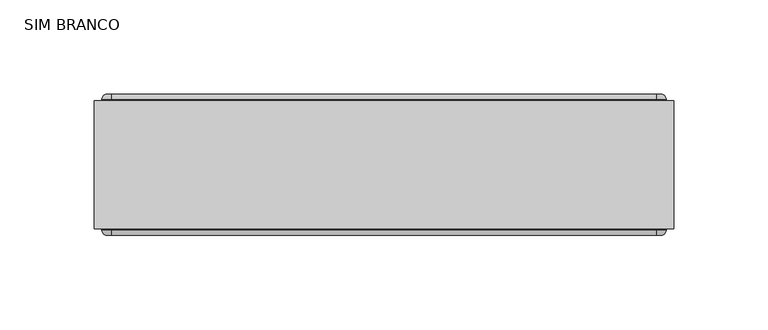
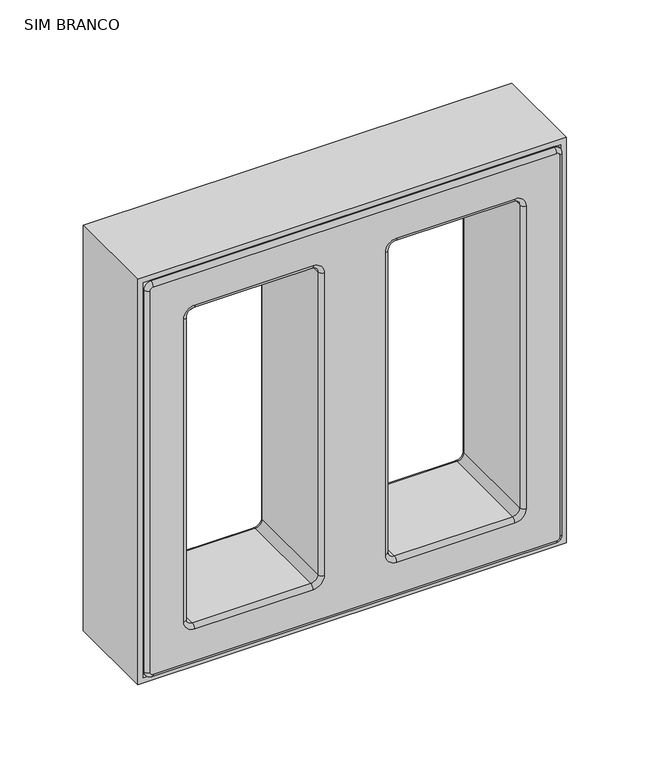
"""IFC4 building model written with IfcOpenShell, lengths in millimetres: plate geometry, PORTOBELLO - ELEMENTO SIM BRANCO 30X30 (PAINEL CORTINA) : SIM BRANCO."""

from ifc_helpers import new_model, si_unit, point, frame, origin, place, context, project, spatial, polyline, circle_curve, ellipse_curve, trimmed, outline, extrude, source, transform, mapped, element, save
from ifc_brep_helpers import plane_surface, cylinder_surface, revolved_surface, advanced_brep


def sim_branco_8a5b93f5(model_context):
    return source(origin(), model_context, "Body", "SolidModel", [
        advanced_brep(
        [(-145.0, -37.5, 301.0), (-147.0, -37.5, 299.0), (-147.0, -37.5, 9.0), (-145.0, -37.5, 7.0), (145.0, -37.5, 7.0), (147.0, -37.5, 9.0), (147.0, -37.5, 299.0), (145.0, -37.5, 301.0), (-123.0, -37.5, 269.0), (-115.0, -37.5, 277.0), (-30.0, -37.5, 277.0), (-22.0, -37.5, 269.0), (-22.0, -37.5, 39.0), (-30.0, -37.5, 31.0), (-115.0, -37.5, 31.0), (-123.0, -37.5, 39.0), (22.0, -37.5, 269.0), (30.0, -37.5, 277.0), (115.0, -37.5, 277.0), (123.0, -37.5, 269.0), (123.0, -37.5, 39.0), (115.0, -37.5, 31.0), (30.0, -37.5, 31.0), (22.0, -37.5, 39.0), (-147.0, 37.5, 299.0), (-145.0, 37.5, 301.0), (145.0, 37.5, 301.0), (147.0, 37.5, 299.0), (147.0, 37.5, 9.0), (145.0, 37.5, 7.0), (-145.0, 37.5, 7.0), (-147.0, 37.5, 9.0), (-115.0, 37.5, 277.0), (-123.0, 37.5, 269.0), (-123.0, 37.5, 39.0), (-115.0, 37.5, 31.0), (-30.0, 37.5, 31.0), (-22.0, 37.5, 39.0), (-22.0, 37.5, 269.0), (-30.0, 37.5, 277.0), (30.0, 37.5, 277.0), (22.0, 37.5, 269.0), (22.0, 37.5, 39.0), (30.0, 37.5, 31.0), (115.0, 37.5, 31.0), (123.0, 37.5, 39.0), (123.0, 37.5, 269.0), (115.0, 37.5, 277.0), (-145.0, -34.5000013, 304.0), (-145.0, 34.5, 304.0), (-150.0, 34.5, 299.0), (-150.0, -34.5000025, 299.0), (-150.0, 34.5, 9.0), (-150.0, -34.5, 9.0), (-145.0, 34.5, 4.0), (-145.0, -34.5000025, 4.0), (145.0, 34.5, 4.0), (145.0, -34.5, 4.0), (150.0, 34.5, 9.0), (150.0, -34.5000025, 9.0), (150.0, 34.5, 299.0), (150.0, -34.5, 299.0), (145.0, 34.5, 304.0), (145.0, -34.5000025, 304.0), (-120.0, -34.5000025, 39.0), (-120.0, 34.5, 39.0), (-120.0, 34.5, 269.0), (-120.0, -34.5000016, 269.0), (-115.0, 34.5, 274.0), (-115.0, -34.5000016, 274.0), (-30.0, 34.5, 274.0), (-30.0, -34.5, 274.0), (-25.0, 34.5, 269.0), (-25.0, -34.5000016, 269.0), (-25.0, 34.5, 39.0), (-25.0, -34.5, 39.0), (-30.0, 34.5, 34.0), (-30.0, -34.5000018, 34.0), (-115.0, 34.5, 34.0), (-115.0, -34.5, 34.0), (120.0, -34.5000025, 269.0), (120.0, 34.5, 269.0), (120.0, 34.5, 39.0), (120.0, -34.5, 39.0), (115.0, 34.5, 34.0), (115.0, -34.5000016, 34.0), (30.0, 34.5, 34.0), (30.0, -34.5, 34.0), (25.0, 34.5, 39.0), (25.0, -34.5000016, 39.0), (25.0, 34.5, 269.0), (25.0, -34.5000016, 269.0), (30.0, 34.5, 274.0), (30.0, -34.5000014, 274.0), (115.0, 34.5, 274.0), (115.0, -34.5, 274.0)],
        [
            (0, 1, circle_curve(frame((-145.0, -37.5, 299.0), z_axis=(0.0, -1.0, 0.0), x_axis=(0.0, 0.0, 1.0)), 2.0)),
            (1, 2),
            (2, 3, circle_curve(frame((-145.0, -37.5, 9.0), z_axis=(0.0, -1.0, 0.0), x_axis=(-1.0, 0.0, 0.0)), 2.0)),
            (3, 4),
            (4, 5, circle_curve(frame((145.0, -37.5, 9.0), z_axis=(0.0, -1.0, 0.0), x_axis=(0.0, 0.0, -1.0)), 2.0)),
            (5, 6),
            (6, 7, circle_curve(frame((145.0, -37.5, 299.0), z_axis=(0.0, -1.0, 0.0), x_axis=(1.0, 0.0, 0.0)), 2.0)),
            (7, 0),
            (8, 9, circle_curve(frame((-115.0, -37.5, 269.0), z_axis=(0.0, 1.0, 0.0), x_axis=(-1.0, 0.0, 0.0)), 8.0)),
            (9, 10),
            (10, 11, circle_curve(frame((-30.0, -37.5, 269.0), z_axis=(0.0, 1.0, 0.0), x_axis=(0.0, 0.0, 1.0)), 8.0)),
            (11, 12),
            (12, 13, circle_curve(frame((-30.0, -37.5, 39.0), z_axis=(0.0, 1.0, 0.0), x_axis=(1.0, 0.0, 0.0)), 8.0)),
            (13, 14),
            (14, 15, circle_curve(frame((-115.0, -37.5, 39.0), z_axis=(0.0, 1.0, 0.0), x_axis=(0.0, 0.0, -1.0)), 8.0)),
            (15, 8),
            (16, 17, circle_curve(frame((30.0, -37.5, 269.0), z_axis=(0.0, 1.0, 0.0), x_axis=(-1.0, 0.0, 0.0)), 8.0)),
            (17, 18),
            (18, 19, circle_curve(frame((115.0, -37.5, 269.0), z_axis=(0.0, 1.0, 0.0), x_axis=(0.0, 0.0, 1.0)), 8.0)),
            (19, 20),
            (20, 21, circle_curve(frame((115.0, -37.5, 39.0), z_axis=(0.0, 1.0, 0.0), x_axis=(1.0, 0.0, 0.0)), 8.0)),
            (21, 22),
            (22, 23, circle_curve(frame((30.0, -37.5, 39.0), z_axis=(0.0, 1.0, 0.0), x_axis=(0.0, 0.0, -1.0)), 8.0)),
            (23, 16),
            (24, 25, circle_curve(frame((-145.0, 37.5, 299.0), z_axis=(0.0, 1.0, 0.0), x_axis=(0.0, 0.0, 1.0)), 2.0)),
            (25, 26),
            (26, 27, circle_curve(frame((145.0, 37.5, 299.0), z_axis=(0.0, 1.0, 0.0), x_axis=(1.0, 0.0, 0.0)), 2.0)),
            (27, 28),
            (28, 29, circle_curve(frame((145.0, 37.5, 9.0), z_axis=(0.0, 1.0, 0.0), x_axis=(0.0, 0.0, -1.0)), 2.0)),
            (29, 30),
            (30, 31, circle_curve(frame((-145.0, 37.5, 9.0), z_axis=(0.0, 1.0, 0.0), x_axis=(-1.0, 0.0, 0.0)), 2.0)),
            (31, 24),
            (32, 33, circle_curve(frame((-115.0, 37.5, 269.0), z_axis=(0.0, -1.0, 0.0), x_axis=(-1.0, 0.0, 0.0)), 8.0)),
            (33, 34),
            (34, 35, circle_curve(frame((-115.0, 37.5, 39.0), z_axis=(0.0, -1.0, 0.0), x_axis=(0.0, 0.0, -1.0)), 8.0)),
            (35, 36),
            (36, 37, circle_curve(frame((-30.0, 37.5, 39.0), z_axis=(0.0, -1.0, 0.0), x_axis=(1.0, 0.0, 0.0)), 8.0)),
            (37, 38),
            (38, 39, circle_curve(frame((-30.0, 37.5, 269.0), z_axis=(0.0, -1.0, 0.0), x_axis=(0.0, 0.0, 1.0)), 8.0)),
            (39, 32),
            (40, 41, circle_curve(frame((30.0, 37.5, 269.0), z_axis=(0.0, -1.0, 0.0), x_axis=(-1.0, 0.0, 0.0)), 8.0)),
            (41, 42),
            (42, 43, circle_curve(frame((30.0, 37.5, 39.0), z_axis=(0.0, -1.0, 0.0), x_axis=(0.0, 0.0, -1.0)), 8.0)),
            (43, 44),
            (44, 45, circle_curve(frame((115.0, 37.5, 39.0), z_axis=(0.0, -1.0, 0.0), x_axis=(1.0, 0.0, 0.0)), 8.0)),
            (45, 46),
            (46, 47, circle_curve(frame((115.0, 37.5, 269.0), z_axis=(0.0, -1.0, 0.0), x_axis=(0.0, 0.0, 1.0)), 8.0)),
            (47, 40),
            (48, 49),
            (49, 50, circle_curve(frame((-145.0, 34.5, 299.0), z_axis=(0.0, -1.0, 0.0), x_axis=(1.0, 0.0, 0.0)), 5.0)),
            (50, 51),
            (51, 48, circle_curve(frame((-145.0, -34.5, 299.0), z_axis=(0.0, 1.0, 0.0), x_axis=(1.0, 0.0, 0.0)), 5.0)),
            (50, 52),
            (52, 53),
            (53, 51),
            (52, 54, circle_curve(frame((-145.0, 34.5, 9.0), z_axis=(0.0, -1.0, 0.0), x_axis=(1.0, 0.0, 0.0)), 5.0)),
            (54, 55),
            (55, 53, circle_curve(frame((-145.0, -34.5, 9.0), z_axis=(0.0, 1.0, 0.0), x_axis=(1.0, 0.0, 0.0)), 5.0)),
            (54, 56),
            (56, 57),
            (57, 55),
            (56, 58, circle_curve(frame((145.0, 34.5, 9.0), z_axis=(0.0, -1.0, 0.0), x_axis=(1.0, 0.0, 0.0)), 5.0)),
            (58, 59),
            (59, 57, circle_curve(frame((145.0, -34.5, 9.0), z_axis=(0.0, 1.0, 0.0), x_axis=(1.0, 0.0, 0.0)), 5.0)),
            (58, 60),
            (60, 61),
            (61, 59),
            (60, 62, circle_curve(frame((145.0, 34.5, 299.0), z_axis=(0.0, -1.0, 0.0), x_axis=(1.0, 0.0, 0.0)), 5.0)),
            (62, 63),
            (63, 61, circle_curve(frame((145.0, -34.5, 299.0), z_axis=(0.0, 1.0, 0.0), x_axis=(1.0, 0.0, 0.0)), 5.0)),
            (48, 63),
            (62, 49),
            (64, 65),
            (65, 66),
            (66, 67),
            (67, 64),
            (66, 68, circle_curve(frame((-115.0, 34.5, 269.0), z_axis=(0.0, 1.0, 0.0), x_axis=(1.0, 0.0, 0.0)), 5.0)),
            (68, 69),
            (69, 67, circle_curve(frame((-115.0, -34.5, 269.0), z_axis=(0.0, -1.0, 0.0), x_axis=(1.0, 0.0, 0.0)), 5.0)),
            (68, 70),
            (70, 71),
            (71, 69),
            (70, 72, circle_curve(frame((-30.0, 34.5, 269.0), z_axis=(0.0, 1.0, 0.0), x_axis=(1.0, 0.0, 0.0)), 5.0)),
            (72, 73),
            (73, 71, circle_curve(frame((-30.0, -34.5, 269.0), z_axis=(0.0, -1.0, 0.0), x_axis=(1.0, 0.0, 0.0)), 5.0)),
            (72, 74),
            (74, 75),
            (75, 73),
            (74, 76, circle_curve(frame((-30.0, 34.5, 39.0), z_axis=(0.0, 1.0, 0.0), x_axis=(1.0, 0.0, 0.0)), 5.0)),
            (76, 77),
            (77, 75, circle_curve(frame((-30.0, -34.5, 39.0), z_axis=(0.0, -1.0, 0.0), x_axis=(1.0, 0.0, 0.0)), 5.0)),
            (76, 78),
            (78, 79),
            (79, 77),
            (64, 79, circle_curve(frame((-115.0, -34.5, 39.0), z_axis=(0.0, -1.0, 0.0), x_axis=(1.0, 0.0, 0.0)), 5.0)),
            (78, 65, circle_curve(frame((-115.0, 34.5, 39.0), z_axis=(0.0, 1.0, 0.0), x_axis=(1.0, 0.0, 0.0)), 5.0)),
            (80, 81),
            (81, 82),
            (82, 83),
            (83, 80),
            (82, 84, circle_curve(frame((115.0, 34.5, 39.0), z_axis=(0.0, 1.0, 0.0), x_axis=(1.0, 0.0, 0.0)), 5.0)),
            (84, 85),
            (85, 83, circle_curve(frame((115.0, -34.5, 39.0), z_axis=(0.0, -1.0, 0.0), x_axis=(1.0, 0.0, 0.0)), 5.0)),
            (84, 86),
            (86, 87),
            (87, 85),
            (86, 88, circle_curve(frame((30.0, 34.5, 39.0), z_axis=(0.0, 1.0, 0.0), x_axis=(1.0, 0.0, 0.0)), 5.0)),
            (88, 89),
            (89, 87, circle_curve(frame((30.0, -34.5, 39.0), z_axis=(0.0, -1.0, 0.0), x_axis=(1.0, 0.0, 0.0)), 5.0)),
            (88, 90),
            (90, 91),
            (91, 89),
            (90, 92, circle_curve(frame((30.0, 34.5, 269.0), z_axis=(0.0, 1.0, 0.0), x_axis=(1.0, 0.0, 0.0)), 5.0)),
            (92, 93),
            (93, 91, circle_curve(frame((30.0, -34.5, 269.0), z_axis=(0.0, -1.0, 0.0), x_axis=(1.0, 0.0, 0.0)), 5.0)),
            (92, 94),
            (94, 95),
            (95, 93),
            (80, 95, circle_curve(frame((115.0, -34.5, 269.0), z_axis=(0.0, -1.0, 0.0), x_axis=(1.0, 0.0, 0.0)), 5.0)),
            (94, 81, circle_curve(frame((115.0, 34.5, 269.0), z_axis=(0.0, 1.0, 0.0), x_axis=(1.0, 0.0, 0.0)), 5.0)),
            (51, 1, circle_curve(frame((-147.0, -34.5, 299.0), z_axis=(0.0, 0.0, 1.0), x_axis=(0.0, -1.0, 0.0)), 3.0)),
            (0, 48, circle_curve(frame((-145.0, -34.5, 301.0), z_axis=(-1.0, 0.0, 0.0), x_axis=(0.0, -1.0, 0.0)), 3.0)),
            (53, 2, circle_curve(frame((-147.0, -34.5, 9.0), z_axis=(0.0, 0.0, 1.0), x_axis=(0.0, -1.0, 0.0)), 3.0)),
            (55, 3, circle_curve(frame((-145.0, -34.5, 7.0), z_axis=(-1.0, 0.0, 0.0), x_axis=(0.0, -1.0, 0.0)), 3.0)),
            (57, 4, circle_curve(frame((145.0, -34.5, 7.0), z_axis=(-1.0, 0.0, 0.0), x_axis=(0.0, -1.0, 0.0)), 3.0)),
            (59, 5, circle_curve(frame((147.0, -34.5, 9.0), z_axis=(0.0, 0.0, -1.0), x_axis=(0.0, -1.0, 0.0)), 3.0)),
            (61, 6, circle_curve(frame((147.0, -34.5, 299.0), z_axis=(0.0, 0.0, -1.0), x_axis=(0.0, -1.0, 0.0)), 3.0)),
            (63, 7, circle_curve(frame((145.0, -34.5, 301.0), z_axis=(1.0, 0.0, 0.0), x_axis=(0.0, -1.0, 0.0)), 3.0)),
            (24, 50, circle_curve(frame((-147.0, 34.5, 299.0), z_axis=(0.0, 0.0, 1.0), x_axis=(0.0, -1.0, 0.0)), 3.0)),
            (49, 25, circle_curve(frame((-145.0, 34.5, 301.0), z_axis=(-1.0, 0.0, 0.0), x_axis=(0.0, -1.0, 0.0)), 3.0)),
            (31, 52, circle_curve(frame((-147.0, 34.5, 9.0), z_axis=(0.0, 0.0, 1.0), x_axis=(0.0, -1.0, 0.0)), 3.0)),
            (30, 54, circle_curve(frame((-145.0, 34.5, 7.0), z_axis=(-1.0, 0.0, 0.0), x_axis=(0.0, -1.0, 0.0)), 3.0)),
            (29, 56, circle_curve(frame((145.0, 34.5, 7.0), z_axis=(-1.0, 0.0, 0.0), x_axis=(0.0, -1.0, 0.0)), 3.0)),
            (28, 58, circle_curve(frame((147.0, 34.5, 9.0), z_axis=(0.0, 0.0, -1.0), x_axis=(0.0, -1.0, 0.0)), 3.0)),
            (27, 60, circle_curve(frame((147.0, 34.5, 299.0), z_axis=(0.0, 0.0, -1.0), x_axis=(0.0, -1.0, 0.0)), 3.0)),
            (26, 62, circle_curve(frame((145.0, 34.5, 301.0), z_axis=(1.0, 0.0, 0.0), x_axis=(0.0, -1.0, 0.0)), 3.0)),
            (69, 9, circle_curve(frame((-115.0, -34.5, 277.0), z_axis=(-1.0, 0.0, 0.0), x_axis=(0.0, -1.0, 0.0)), 3.0)),
            (8, 67, circle_curve(frame((-123.0, -34.5, 269.0), z_axis=(0.0, 0.0, 1.0), x_axis=(0.0, -1.0, 0.0)), 3.0)),
            (71, 10, circle_curve(frame((-30.0, -34.5, 277.0), z_axis=(-1.0, 0.0, 0.0), x_axis=(0.0, -1.0, 0.0)), 3.0)),
            (73, 11, circle_curve(frame((-22.0, -34.5, 269.0), z_axis=(0.0, 0.0, 1.0), x_axis=(0.0, -1.0, 0.0)), 3.0)),
            (75, 12, circle_curve(frame((-22.0, -34.5, 39.0), z_axis=(0.0, 0.0, 1.0), x_axis=(0.0, -1.0, 0.0)), 3.0)),
            (77, 13, circle_curve(frame((-30.0, -34.5, 31.0), z_axis=(1.0, 0.0, 0.0), x_axis=(0.0, -1.0, 0.0)), 3.0)),
            (79, 14, circle_curve(frame((-115.0, -34.5, 31.0), z_axis=(1.0, 0.0, 0.0), x_axis=(0.0, -1.0, 0.0)), 3.0)),
            (64, 15, circle_curve(frame((-123.0, -34.5, 39.0), z_axis=(0.0, 0.0, -1.0), x_axis=(0.0, -1.0, 0.0)), 3.0)),
            (32, 68, circle_curve(frame((-115.0, 34.5, 277.0), z_axis=(-1.0, 0.0, 0.0), x_axis=(0.0, -1.0, 0.0)), 3.0)),
            (66, 33, circle_curve(frame((-123.0, 34.5, 269.0), z_axis=(0.0, 0.0, 1.0), x_axis=(0.0, -1.0, 0.0)), 3.0)),
            (39, 70, circle_curve(frame((-30.0, 34.5, 277.0), z_axis=(-1.0, 0.0, 0.0), x_axis=(0.0, -1.0, 0.0)), 3.0)),
            (38, 72, circle_curve(frame((-22.0, 34.5, 269.0), z_axis=(0.0, 0.0, 1.0), x_axis=(0.0, -1.0, 0.0)), 3.0)),
            (37, 74, circle_curve(frame((-22.0, 34.5, 39.0), z_axis=(0.0, 0.0, 1.0), x_axis=(0.0, -1.0, 0.0)), 3.0)),
            (36, 76, circle_curve(frame((-30.0, 34.5, 31.0), z_axis=(1.0, 0.0, 0.0), x_axis=(0.0, -1.0, 0.0)), 3.0)),
            (35, 78, circle_curve(frame((-115.0, 34.5, 31.0), z_axis=(1.0, 0.0, 0.0), x_axis=(0.0, -1.0, 0.0)), 3.0)),
            (34, 65, circle_curve(frame((-123.0, 34.5, 39.0), z_axis=(0.0, 0.0, -1.0), x_axis=(0.0, -1.0, 0.0)), 3.0)),
            (93, 17, circle_curve(frame((30.0, -34.5, 277.0), z_axis=(-1.0, 0.0, 0.0), x_axis=(0.0, -1.0, 0.0)), 3.0)),
            (16, 91, circle_curve(frame((22.0, -34.5, 269.0), z_axis=(0.0, 0.0, 1.0), x_axis=(0.0, -1.0, 0.0)), 3.0)),
            (40, 92, circle_curve(frame((30.0, 34.5, 277.0), z_axis=(-1.0, 0.0, 0.0), x_axis=(0.0, -1.0, 0.0)), 3.0)),
            (90, 41, circle_curve(frame((22.0, 34.5, 269.0), z_axis=(0.0, 0.0, 1.0), x_axis=(0.0, -1.0, 0.0)), 3.0)),
            (95, 18, circle_curve(frame((115.0, -34.5, 277.0), z_axis=(-1.0, 0.0, 0.0), x_axis=(0.0, -1.0, 0.0)), 3.0)),
            (47, 94, circle_curve(frame((115.0, 34.5, 277.0), z_axis=(-1.0, 0.0, 0.0), x_axis=(0.0, -1.0, 0.0)), 3.0)),
            (80, 19, circle_curve(frame((123.0, -34.5, 269.0), z_axis=(0.0, 0.0, 1.0), x_axis=(0.0, -1.0, 0.0)), 3.0)),
            (46, 81, circle_curve(frame((123.0, 34.5, 269.0), z_axis=(0.0, 0.0, 1.0), x_axis=(0.0, -1.0, 0.0)), 3.0)),
            (83, 20, circle_curve(frame((123.0, -34.5, 39.0), z_axis=(0.0, 0.0, 1.0), x_axis=(0.0, -1.0, 0.0)), 3.0)),
            (45, 82, circle_curve(frame((123.0, 34.5, 39.0), z_axis=(0.0, 0.0, 1.0), x_axis=(0.0, -1.0, 0.0)), 3.0)),
            (85, 21, circle_curve(frame((115.0, -34.5, 31.0), z_axis=(1.0, 0.0, 0.0), x_axis=(0.0, -1.0, 0.0)), 3.0)),
            (44, 84, circle_curve(frame((115.0, 34.5, 31.0), z_axis=(1.0, 0.0, 0.0), x_axis=(0.0, -1.0, 0.0)), 3.0)),
            (87, 22, circle_curve(frame((30.0, -34.5, 31.0), z_axis=(1.0, 0.0, 0.0), x_axis=(0.0, -1.0, 0.0)), 3.0)),
            (43, 86, circle_curve(frame((30.0, 34.5, 31.0), z_axis=(1.0, 0.0, 0.0), x_axis=(0.0, -1.0, 0.0)), 3.0)),
            (89, 23, circle_curve(frame((22.0, -34.5, 39.0), z_axis=(0.0, 0.0, -1.0), x_axis=(0.0, -1.0, 0.0)), 3.0)),
            (42, 88, circle_curve(frame((22.0, 34.5, 39.0), z_axis=(0.0, 0.0, -1.0), x_axis=(0.0, -1.0, 0.0)), 3.0)),
        ],
        [
            plane_surface(frame((-140.0, -37.5, 299.0), z_axis=(0.0, -1.0, 0.0), x_axis=(0.0, 0.0, 1.0))),
            plane_surface(frame((-140.0, 37.5, 299.0), z_axis=(0.0, 1.0, 0.0), x_axis=(0.0, 0.0, -1.0))),
            cylinder_surface(frame((-145.0, 37.5, 299.0), z_axis=(0.0, -1.0, 0.0), x_axis=(1.0, 0.0, 0.0)), 5.0),
            plane_surface(frame((-150.0, -37.5, 299.0), z_axis=(-1.0, 0.0, 0.0), x_axis=(0.0, 1.0, 0.0))),
            cylinder_surface(frame((-145.0, 37.5, 9.0), z_axis=(0.0, -1.0, 0.0), x_axis=(1.0, 0.0, 0.0)), 5.0),
            plane_surface(frame((-145.0, -37.5, 4.0), z_axis=(0.0, 0.0, -1.0), x_axis=(0.0, 1.0, 0.0))),
            cylinder_surface(frame((145.0, 37.5, 9.0), z_axis=(0.0, -1.0, 0.0), x_axis=(1.0, 0.0, 0.0)), 5.0),
            plane_surface(frame((150.0, -37.5, 9.0), z_axis=(1.0, 0.0, 0.0), x_axis=(0.0, 1.0, 0.0))),
            cylinder_surface(frame((145.0, 37.5, 299.0), z_axis=(0.0, -1.0, 0.0), x_axis=(1.0, 0.0, 0.0)), 5.0),
            plane_surface(frame((145.0, -37.5, 304.0), z_axis=(0.0, 0.0, 1.0), x_axis=(0.0, 1.0, 0.0))),
            plane_surface(frame((-120.0, -37.5, 39.0), z_axis=(1.0, 0.0, 0.0), x_axis=(0.0, 1.0, 0.0))),
            revolved_surface(polyline([(-110.0, 34.5, 269.0), (-110.0, -34.5000016, 269.0)]), (-115.0, 0.0, 269.0), (0.0, 1.0, 0.0)),
            plane_surface(frame((-115.0, -37.5, 274.0), z_axis=(0.0, 0.0, -1.0), x_axis=(0.0, 1.0, 0.0))),
            revolved_surface(polyline([(-25.0, 34.5, 269.0), (-25.0, -34.5000016, 269.0)]), (-30.0, 0.0, 269.0), (0.0, 1.0, 0.0)),
            plane_surface(frame((-25.0, -37.5, 269.0), z_axis=(-1.0, 0.0, 0.0), x_axis=(0.0, 1.0, 0.0))),
            revolved_surface(polyline([(-25.0, 34.5, 39.0), (-25.0, -34.5000018, 39.0)]), (-30.0, 0.0, 39.0), (0.0, 1.0, 0.0)),
            plane_surface(frame((-30.0, -37.5, 34.0), z_axis=(0.0, 0.0, 1.0), x_axis=(0.0, 1.0, 0.0))),
            revolved_surface(polyline([(-110.0, 34.5, 39.0), (-110.0, -34.5000025, 39.0)]), (-115.0, 0.0, 39.0), (0.0, 1.0, 0.0)),
            plane_surface(frame((120.0, -37.5, 269.0), z_axis=(-1.0, 0.0, 0.0), x_axis=(0.0, 1.0, 0.0))),
            revolved_surface(polyline([(120.0, 34.5, 39.0), (120.0, -34.5000016, 39.0)]), (115.0, 0.0, 39.0), (0.0, 1.0, 0.0)),
            plane_surface(frame((115.0, -37.5, 34.0), z_axis=(0.0, 0.0, 1.0), x_axis=(0.0, 1.0, 0.0))),
            revolved_surface(polyline([(35.0, 34.5, 39.0), (35.0, -34.5000016, 39.0)]), (30.0, 0.0, 39.0), (0.0, 1.0, 0.0)),
            plane_surface(frame((25.0, -37.5, 39.0), z_axis=(1.0, 0.0, 0.0), x_axis=(0.0, 1.0, 0.0))),
            revolved_surface(polyline([(35.0, 34.5, 269.0), (35.0, -34.5000016, 269.0)]), (30.0, 0.0, 269.0), (0.0, 1.0, 0.0)),
            plane_surface(frame((30.0, -37.5, 274.0), z_axis=(0.0, 0.0, -1.0), x_axis=(0.0, 1.0, 0.0))),
            revolved_surface(polyline([(120.0, 34.5, 269.0), (120.0, -34.5000025, 269.0)]), (115.0, 0.0, 269.0), (0.0, 1.0, 0.0)),
            revolved_surface(trimmed(ellipse_curve(frame((-145.0, -34.5, 301.0), z_axis=(1.0, 0.0, 0.0), x_axis=(0.0, -1.0, 0.0)), 3.0, 3.0), [point((-145.0, -34.5, 304.0))], [point((-145.0, -37.5, 301.0))], True, "CARTESIAN"), (-145.0, -37.5, 299.0), (0.0, -1.0, 0.0)),
            cylinder_surface(frame((-147.0, -34.5, 299.0), z_axis=(0.0, 0.0, -1.0), x_axis=(0.0, -1.0, 0.0)), 3.0),
            revolved_surface(trimmed(ellipse_curve(frame((-147.0, -34.5, 9.0), z_axis=(0.0, 0.0, 1.0), x_axis=(0.0, -1.0, 0.0)), 3.0, 3.0), [point((-150.0, -34.5, 9.0))], [point((-147.0, -37.5, 9.0))], True, "CARTESIAN"), (-145.0, -37.5, 9.0), (0.0, -1.0, 0.0)),
            cylinder_surface(frame((-145.0, -34.5, 7.0), z_axis=(1.0, 0.0, 0.0), x_axis=(0.0, -1.0, 0.0)), 3.0),
            revolved_surface(trimmed(ellipse_curve(frame((145.0, -34.5, 7.0), z_axis=(-1.0, 0.0, 0.0), x_axis=(0.0, -1.0, 0.0)), 3.0, 3.0), [point((145.0, -34.5, 4.0))], [point((145.0, -37.5, 7.0))], True, "CARTESIAN"), (145.0, -37.5, 9.0), (0.0, -1.0, 0.0)),
            cylinder_surface(frame((147.0, -34.5, 9.0), z_axis=(0.0, 0.0, 1.0), x_axis=(0.0, -1.0, 0.0)), 3.0),
            revolved_surface(trimmed(ellipse_curve(frame((147.0, -34.5, 299.0), z_axis=(0.0, 0.0, -1.0), x_axis=(0.0, -1.0, 0.0)), 3.0, 3.0), [point((150.0, -34.5, 299.0))], [point((147.0, -37.5, 299.0))], True, "CARTESIAN"), (145.0, -37.5, 299.0), (0.0, -1.0, 0.0)),
            cylinder_surface(frame((145.0, -34.5, 301.0), z_axis=(-1.0, 0.0, 0.0), x_axis=(0.0, -1.0, 0.0)), 3.0),
            revolved_surface(trimmed(ellipse_curve(frame((-145.0, 34.5, 301.0), z_axis=(1.0, 0.0, 0.0), x_axis=(0.0, -1.0, 0.0)), 3.0, 3.0), [point((-145.0, 37.5, 301.0))], [point((-145.0, 34.5, 304.0))], True, "CARTESIAN"), (-145.0, -37.5, 299.0), (0.0, -1.0, 0.0)),
            cylinder_surface(frame((-147.0, 34.5, 299.0), z_axis=(0.0, 0.0, -1.0), x_axis=(0.0, -1.0, 0.0)), 3.0),
            revolved_surface(trimmed(ellipse_curve(frame((-147.0, 34.5, 9.0), z_axis=(0.0, 0.0, 1.0), x_axis=(0.0, -1.0, 0.0)), 3.0, 3.0), [point((-147.0, 37.5, 9.0))], [point((-150.0, 34.5, 9.0))], True, "CARTESIAN"), (-145.0, -37.5, 9.0), (0.0, -1.0, 0.0)),
            cylinder_surface(frame((-145.0, 34.5, 7.0), z_axis=(1.0, 0.0, 0.0), x_axis=(0.0, -1.0, 0.0)), 3.0),
            revolved_surface(trimmed(ellipse_curve(frame((145.0, 34.5, 7.0), z_axis=(-1.0, 0.0, 0.0), x_axis=(0.0, -1.0, 0.0)), 3.0, 3.0), [point((145.0, 37.5, 7.0))], [point((145.0, 34.5, 4.0))], True, "CARTESIAN"), (145.0, -37.5, 9.0), (0.0, -1.0, 0.0)),
            cylinder_surface(frame((147.0, 34.5, 9.0), z_axis=(0.0, 0.0, 1.0), x_axis=(0.0, -1.0, 0.0)), 3.0),
            revolved_surface(trimmed(ellipse_curve(frame((147.0, 34.5, 299.0), z_axis=(0.0, 0.0, -1.0), x_axis=(0.0, -1.0, 0.0)), 3.0, 3.0), [point((147.0, 37.5, 299.0))], [point((150.0, 34.5, 299.0))], True, "CARTESIAN"), (145.0, -37.5, 299.0), (0.0, -1.0, 0.0)),
            cylinder_surface(frame((145.0, 34.5, 301.0), z_axis=(-1.0, 0.0, 0.0), x_axis=(0.0, -1.0, 0.0)), 3.0),
            revolved_surface(trimmed(ellipse_curve(frame((-123.0, -34.5, 269.0), z_axis=(0.0, 0.0, -1.0), x_axis=(0.0, -1.0, 0.0)), 3.0, 3.0), [point((-120.0, -34.5, 269.0))], [point((-123.0, -37.5, 269.0))], True, "CARTESIAN"), (-115.0, -37.5, 269.0), (0.0, 1.0, 0.0)),
            cylinder_surface(frame((-115.0, -34.5, 277.0), z_axis=(1.0, 0.0, 0.0), x_axis=(0.0, -1.0, 0.0)), 3.0),
            revolved_surface(trimmed(ellipse_curve(frame((-30.0, -34.5, 277.0), z_axis=(-1.0, 0.0, 0.0), x_axis=(0.0, -1.0, 0.0)), 3.0, 3.0), [point((-30.0, -34.5, 274.0))], [point((-30.0, -37.5, 277.0))], True, "CARTESIAN"), (-30.0, -37.5, 269.0), (0.0, 1.0, 0.0)),
            cylinder_surface(frame((-22.0, -34.5, 269.0), z_axis=(0.0, 0.0, -1.0), x_axis=(0.0, -1.0, 0.0)), 3.0),
            revolved_surface(trimmed(ellipse_curve(frame((-22.0, -34.5, 39.0), z_axis=(0.0, 0.0, 1.0), x_axis=(0.0, -1.0, 0.0)), 3.0, 3.0), [point((-25.0, -34.5, 39.0))], [point((-22.0, -37.5, 39.0))], True, "CARTESIAN"), (-30.0, -37.5, 39.0), (0.0, 1.0, 0.0)),
            cylinder_surface(frame((-30.0, -34.5, 31.0), z_axis=(-1.0, 0.0, 0.0), x_axis=(0.0, -1.0, 0.0)), 3.0),
            revolved_surface(trimmed(ellipse_curve(frame((-115.0, -34.5, 31.0), z_axis=(1.0, 0.0, 0.0), x_axis=(0.0, -1.0, 0.0)), 3.0, 3.0), [point((-115.0, -34.5, 34.0))], [point((-115.0, -37.5, 31.0))], True, "CARTESIAN"), (-115.0, -37.5, 39.0), (0.0, 1.0, 0.0)),
            cylinder_surface(frame((-123.0, -34.5, 39.0), z_axis=(0.0, 0.0, 1.0), x_axis=(0.0, -1.0, 0.0)), 3.0),
            revolved_surface(trimmed(ellipse_curve(frame((-123.0, 34.5, 269.0), z_axis=(0.0, 0.0, -1.0), x_axis=(0.0, -1.0, 0.0)), 3.0, 3.0), [point((-123.0, 37.5, 269.0))], [point((-120.0, 34.5, 269.0))], True, "CARTESIAN"), (-115.0, -37.5, 269.0), (0.0, 1.0, 0.0)),
            cylinder_surface(frame((-115.0, 34.5, 277.0), z_axis=(1.0, 0.0, 0.0), x_axis=(0.0, -1.0, 0.0)), 3.0),
            revolved_surface(trimmed(ellipse_curve(frame((-30.0, 34.5, 277.0), z_axis=(-1.0, 0.0, 0.0), x_axis=(0.0, -1.0, 0.0)), 3.0, 3.0), [point((-30.0, 37.5, 277.0))], [point((-30.0, 34.5, 274.0))], True, "CARTESIAN"), (-30.0, -37.5, 269.0), (0.0, 1.0, 0.0)),
            cylinder_surface(frame((-22.0, 34.5, 269.0), z_axis=(0.0, 0.0, -1.0), x_axis=(0.0, -1.0, 0.0)), 3.0),
            revolved_surface(trimmed(ellipse_curve(frame((-22.0, 34.5, 39.0), z_axis=(0.0, 0.0, 1.0), x_axis=(0.0, -1.0, 0.0)), 3.0, 3.0), [point((-22.0, 37.5, 39.0))], [point((-25.0, 34.5, 39.0))], True, "CARTESIAN"), (-30.0, -37.5, 39.0), (0.0, 1.0, 0.0)),
            cylinder_surface(frame((-30.0, 34.5, 31.0), z_axis=(-1.0, 0.0, 0.0), x_axis=(0.0, -1.0, 0.0)), 3.0),
            revolved_surface(trimmed(ellipse_curve(frame((-115.0, 34.5, 31.0), z_axis=(1.0, 0.0, 0.0), x_axis=(0.0, -1.0, 0.0)), 3.0, 3.0), [point((-115.0, 37.5, 31.0))], [point((-115.0, 34.5, 34.0))], True, "CARTESIAN"), (-115.0, -37.5, 39.0), (0.0, 1.0, 0.0)),
            cylinder_surface(frame((-123.0, 34.5, 39.0), z_axis=(0.0, 0.0, 1.0), x_axis=(0.0, -1.0, 0.0)), 3.0),
            revolved_surface(trimmed(ellipse_curve(frame((22.0, -34.5, 269.0), z_axis=(0.0, 0.0, -1.0), x_axis=(0.0, -1.0, 0.0)), 3.0, 3.0), [point((25.0, -34.5, 269.0))], [point((22.0, -37.5, 269.0))], True, "CARTESIAN"), (30.0, -37.5, 269.0), (0.0, 1.0, 0.0)),
            revolved_surface(trimmed(ellipse_curve(frame((22.0, 34.5, 269.0), z_axis=(0.0, 0.0, -1.0), x_axis=(0.0, -1.0, 0.0)), 3.0, 3.0), [point((22.0, 37.5, 269.0))], [point((25.0, 34.5, 269.0))], True, "CARTESIAN"), (30.0, -37.5, 269.0), (0.0, 1.0, 0.0)),
            cylinder_surface(frame((30.0, -34.5, 277.0), z_axis=(1.0, 0.0, 0.0), x_axis=(0.0, -1.0, 0.0)), 3.0),
            cylinder_surface(frame((30.0, 34.5, 277.0), z_axis=(1.0, 0.0, 0.0), x_axis=(0.0, -1.0, 0.0)), 3.0),
            revolved_surface(trimmed(ellipse_curve(frame((115.0, -34.5, 277.0), z_axis=(-1.0, 0.0, 0.0), x_axis=(0.0, -1.0, 0.0)), 3.0, 3.0), [point((115.0, -34.5, 274.0))], [point((115.0, -37.5, 277.0))], True, "CARTESIAN"), (115.0, -37.5, 269.0), (0.0, 1.0, 0.0)),
            revolved_surface(trimmed(ellipse_curve(frame((115.0, 34.5, 277.0), z_axis=(-1.0, 0.0, 0.0), x_axis=(0.0, -1.0, 0.0)), 3.0, 3.0), [point((115.0, 37.5, 277.0))], [point((115.0, 34.5, 274.0))], True, "CARTESIAN"), (115.0, -37.5, 269.0), (0.0, 1.0, 0.0)),
            cylinder_surface(frame((123.0, -34.5, 269.0), z_axis=(0.0, 0.0, -1.0), x_axis=(0.0, -1.0, 0.0)), 3.0),
            cylinder_surface(frame((123.0, 34.5, 269.0), z_axis=(0.0, 0.0, -1.0), x_axis=(0.0, -1.0, 0.0)), 3.0),
            revolved_surface(trimmed(ellipse_curve(frame((123.0, -34.5, 39.0), z_axis=(0.0, 0.0, 1.0), x_axis=(0.0, -1.0, 0.0)), 3.0, 3.0), [point((120.0, -34.5, 39.0))], [point((123.0, -37.5, 39.0))], True, "CARTESIAN"), (115.0, -37.5, 39.0), (0.0, 1.0, 0.0)),
            revolved_surface(trimmed(ellipse_curve(frame((123.0, 34.5, 39.0), z_axis=(0.0, 0.0, 1.0), x_axis=(0.0, -1.0, 0.0)), 3.0, 3.0), [point((123.0, 37.5, 39.0))], [point((120.0, 34.5, 39.0))], True, "CARTESIAN"), (115.0, -37.5, 39.0), (0.0, 1.0, 0.0)),
            cylinder_surface(frame((115.0, -34.5, 31.0), z_axis=(-1.0, 0.0, 0.0), x_axis=(0.0, -1.0, 0.0)), 3.0),
            cylinder_surface(frame((115.0, 34.5, 31.0), z_axis=(-1.0, 0.0, 0.0), x_axis=(0.0, -1.0, 0.0)), 3.0),
            revolved_surface(trimmed(ellipse_curve(frame((30.0, -34.5, 31.0), z_axis=(1.0, 0.0, 0.0), x_axis=(0.0, -1.0, 0.0)), 3.0, 3.0), [point((30.0, -34.5, 34.0))], [point((30.0, -37.5, 31.0))], True, "CARTESIAN"), (30.0, -37.5, 39.0), (0.0, 1.0, 0.0)),
            revolved_surface(trimmed(ellipse_curve(frame((30.0, 34.5, 31.0), z_axis=(1.0, 0.0, 0.0), x_axis=(0.0, -1.0, 0.0)), 3.0, 3.0), [point((30.0, 37.5, 31.0))], [point((30.0, 34.5, 34.0))], True, "CARTESIAN"), (30.0, -37.5, 39.0), (0.0, 1.0, 0.0)),
            cylinder_surface(frame((22.0, -34.5, 39.0), z_axis=(0.0, 0.0, 1.0), x_axis=(0.0, -1.0, 0.0)), 3.0),
            cylinder_surface(frame((22.0, 34.5, 39.0), z_axis=(0.0, 0.0, 1.0), x_axis=(0.0, -1.0, 0.0)), 3.0),
        ],
        [
            (0, [[1, 2, 3, 4, 5, 6, 7, 8], [9, 10, 11, 12, 13, 14, 15, 16], [17, 18, 19, 20, 21, 22, 23, 24]]),
            (1, [[25, 26, 27, 28, 29, 30, 31, 32], [33, 34, 35, 36, 37, 38, 39, 40], [41, 42, 43, 44, 45, 46, 47, 48]]),
            (2, [[49, 50, 51, 52]]),
            (3, [[-51, 53, 54, 55]]),
            (4, [[-54, 56, 57, 58]]),
            (5, [[-57, 59, 60, 61]]),
            (6, [[-60, 62, 63, 64]]),
            (7, [[-63, 65, 66, 67]]),
            (8, [[-66, 68, 69, 70]]),
            (9, [[-49, 71, -69, 72]]),
            (10, [[73, 74, 75, 76]]),
            (11, [[-75, 77, 78, 79]]),
            (12, [[-78, 80, 81, 82]]),
            (13, [[-81, 83, 84, 85]]),
            (14, [[-84, 86, 87, 88]]),
            (15, [[-87, 89, 90, 91]]),
            (16, [[-90, 92, 93, 94]]),
            (17, [[-73, 95, -93, 96]]),
            (18, [[97, 98, 99, 100]]),
            (19, [[-99, 101, 102, 103]]),
            (20, [[-102, 104, 105, 106]]),
            (21, [[-105, 107, 108, 109]]),
            (22, [[-108, 110, 111, 112]]),
            (23, [[-111, 113, 114, 115]]),
            (24, [[-114, 116, 117, 118]]),
            (25, [[-97, 119, -117, 120]]),
            (26, [[121, -1, 122, -52]]),
            (27, [[-121, -55, 123, -2]]),
            (28, [[-123, -58, 124, -3]]),
            (29, [[-124, -61, 125, -4]]),
            (30, [[-125, -64, 126, -5]]),
            (31, [[-126, -67, 127, -6]]),
            (32, [[-127, -70, 128, -7]]),
            (33, [[-122, -8, -128, -71]]),
            (34, [[129, -50, 130, -25]]),
            (35, [[-129, -32, 131, -53]]),
            (36, [[-131, -31, 132, -56]]),
            (37, [[-132, -30, 133, -59]]),
            (38, [[-133, -29, 134, -62]]),
            (39, [[-134, -28, 135, -65]]),
            (40, [[-135, -27, 136, -68]]),
            (41, [[-130, -72, -136, -26]]),
            (42, [[137, -9, 138, -79]]),
            (43, [[-137, -82, 139, -10]]),
            (44, [[-139, -85, 140, -11]]),
            (45, [[-140, -88, 141, -12]]),
            (46, [[-141, -91, 142, -13]]),
            (47, [[-142, -94, 143, -14]]),
            (48, [[-143, -95, 144, -15]]),
            (49, [[-138, -16, -144, -76]]),
            (50, [[145, -77, 146, -33]]),
            (51, [[-145, -40, 147, -80]]),
            (52, [[-147, -39, 148, -83]]),
            (53, [[-148, -38, 149, -86]]),
            (54, [[-149, -37, 150, -89]]),
            (55, [[-150, -36, 151, -92]]),
            (56, [[-151, -35, 152, -96]]),
            (57, [[-146, -74, -152, -34]]),
            (58, [[153, -17, 154, -115]]),
            (59, [[155, -113, 156, -41]]),
            (60, [[-153, -118, 157, -18]]),
            (61, [[-155, -48, 158, -116]]),
            (62, [[-157, -119, 159, -19]]),
            (63, [[-158, -47, 160, -120]]),
            (64, [[-159, -100, 161, -20]]),
            (65, [[-160, -46, 162, -98]]),
            (66, [[-161, -103, 163, -21]]),
            (67, [[-162, -45, 164, -101]]),
            (68, [[-163, -106, 165, -22]]),
            (69, [[-164, -44, 166, -104]]),
            (70, [[-165, -109, 167, -23]]),
            (71, [[-166, -43, 168, -107]]),
            (72, [[-154, -24, -167, -112]]),
            (73, [[-156, -110, -168, -42]]),
        ],
    ),
        extrude(outline(polyline([(308.0, -154.0), (0.0, -154.0), (0.0, 154.0), (308.0, 154.0), (308.0, -154.0)]), holes=[polyline([(4.0, -150.0), (304.0, -150.0), (304.0, 150.0), (4.0, 150.0), (4.0, -150.0)])]), frame((0.0, -34.0, 0.0), z_axis=(0.0, 1.0, 0.0), x_axis=(0.0, 0.0, 1.0)), (0.0, 0.0, 1.0), 68.0),
    ])


if __name__ == "__main__":
    model = new_model("IFC4")
    model_context = context("Model", 3, world=origin())
    ifc_project = project(units=[si_unit("LENGTHUNIT", "METRE", prefix="MILLI")], contexts=[model_context])
    site = spatial("IfcSite", under=ifc_project)
    building = spatial("IfcBuilding", under=site)
    placement = place(None, origin())
    sim_branco_shape = sim_branco_8a5b93f5(model_context)
    element("IfcPlate", 1, ObjectType="PORTOBELLO - ELEMENTO SIM BRANCO 30X30 (PAINEL CORTINA) : SIM BRANCO", at=placement, inside=building, context=model_context, shape_type="MappedRepresentation", body=[
        mapped(sim_branco_shape, transform((0.0, 0.0, 0.0), x_axis=(1.0, 0.0, 0.0), y_axis=(0.0, 1.0, 0.0), z_axis=(0.0, 0.0, 1.0))),
    ])
    save(model, "model.ifc")
